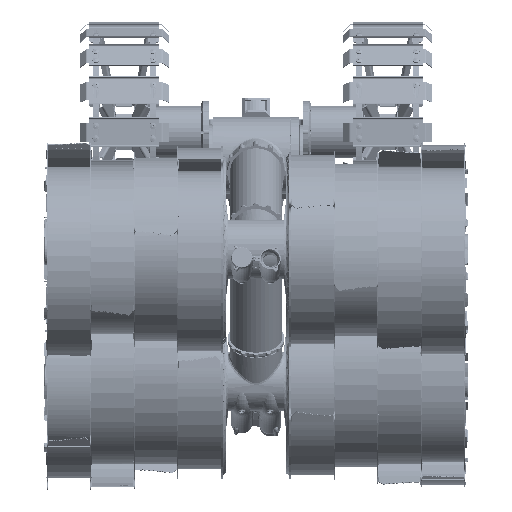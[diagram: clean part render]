
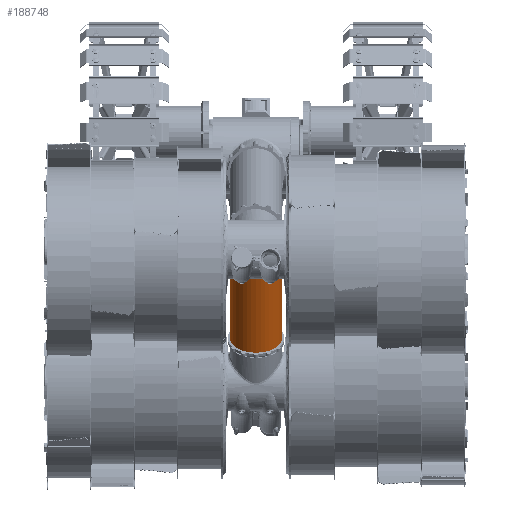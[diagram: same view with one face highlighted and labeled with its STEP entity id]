
A CAD part, front view. The second image highlights one B-rep face of the part: STEP entity #188748.
In plain terms, the highlighted cylindrical face has radius 52.426 mm (diameter 104.851 mm), a partial arc.
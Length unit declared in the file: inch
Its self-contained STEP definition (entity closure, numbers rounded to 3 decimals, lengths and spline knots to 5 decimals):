
#180038=CARTESIAN_POINT('',(-2.62007,16.05269,
-6.64844));
#180039=DIRECTION('',(0.,-0.924,0.383));
#180040=DIRECTION('',(1.,0.,0.));
#180041=AXIS2_PLACEMENT_3D('',#180038,#180039,#180040);
#180043=DIRECTION('',(0.,-0.924,0.383));
#180044=VECTOR('',#180043,13.375);
#180045=CARTESIAN_POINT('',(-0.55607,16.05269,
-6.64844));
#180046=LINE('',#180045,#180044);
#180047=CARTESIAN_POINT('',(-2.62007,3.69558,
-1.53058));
#180048=DIRECTION('',(0.,-0.924,0.383));
#180049=DIRECTION('',(1.,0.,0.));
#180050=AXIS2_PLACEMENT_3D('',#180047,#180048,#180049);
#180617=DIRECTION('',(0.,-0.924,0.383));
#180618=VECTOR('',#180617,13.375);
#180619=CARTESIAN_POINT('',(-4.68407,16.05269,
-6.64844));
#180620=LINE('',#180619,#180618);
#184889=CARTESIAN_POINT('',(-0.55607,3.69558,
-1.53058));
#184890=CARTESIAN_POINT('',(-4.68407,3.69558,
-1.53058));
#184891=VERTEX_POINT('',#184889);
#184892=VERTEX_POINT('',#184890);
#185077=CARTESIAN_POINT('',(-0.55607,16.05269,
-6.64844));
#185078=CARTESIAN_POINT('',(-4.68407,16.05269,
-6.64844));
#185079=VERTEX_POINT('',#185077);
#185080=VERTEX_POINT('',#185078);
#188734=CARTESIAN_POINT('',(-2.62007,16.05269,
-6.64844));
#188735=DIRECTION('',(0.,-0.924,0.383));
#188736=DIRECTION('',(1.,0.,0.));
#188737=AXIS2_PLACEMENT_3D('',#188734,#188735,#188736);
#188738=CYLINDRICAL_SURFACE('',#188737,2.064);
#188740=ORIENTED_EDGE('',*,*,#188739,.F.);
#188742=ORIENTED_EDGE('',*,*,#188741,.T.);
#188743=ORIENTED_EDGE('',*,*,#188451,.T.);
#188745=ORIENTED_EDGE('',*,*,#188744,.F.);
#188746=EDGE_LOOP('',(#188740,#188742,#188743,#188745));
#188747=FACE_OUTER_BOUND('',#188746,.F.);
#188748=ADVANCED_FACE('',(#188747),#188738,.T.);
#180042=CIRCLE('',#180041,2.064);
#180051=CIRCLE('',#180050,2.064);
#188451=EDGE_CURVE('',#184891,#184892,#180051,.T.);
#188739=EDGE_CURVE('',#185079,#185080,#180042,.T.);
#188741=EDGE_CURVE('',#185079,#184891,#180046,.T.);
#188744=EDGE_CURVE('',#185080,#184892,#180620,.T.);
